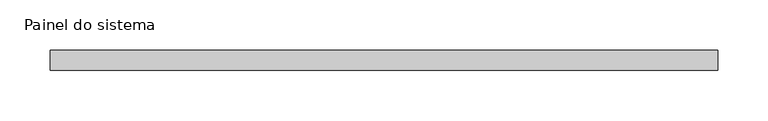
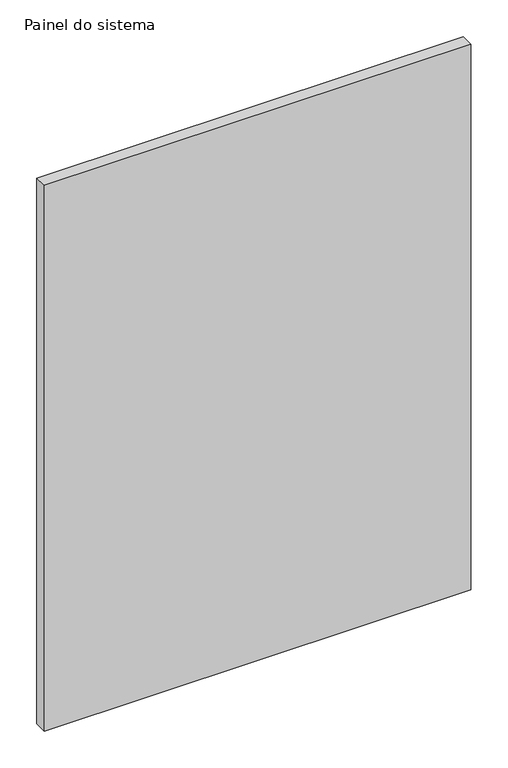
"""IFC4 building model written with IfcOpenShell, lengths in millimetres: plate geometry, Painel do sistema : Envidraçado."""

from ifc_helpers import new_model, si_unit, origin, origin_with_axes, place, context, project, spatial, polyline, outline, extrude, source, transform, mapped, element, save


def painel_do_sistema_2aa81470(model_context):
    return source(origin(), model_context, "Body", "SweptSolid", [
        extrude(outline(polyline([(332.5, -10.0), (-332.5, -10.0), (-332.5, 10.0), (332.5, 10.0), (332.5, -10.0)])), origin_with_axes(), (0.0, 0.0, 1.0), 900.0),
    ])


if __name__ == "__main__":
    model = new_model("IFC4")
    model_context = context("Model", 3, world=origin())
    ifc_project = project(units=[si_unit("LENGTHUNIT", "METRE", prefix="MILLI")], contexts=[model_context])
    site = spatial("IfcSite", under=ifc_project)
    building = spatial("IfcBuilding", under=site)
    placement = place(None, origin())
    painel_do_sistema_shape = painel_do_sistema_2aa81470(model_context)
    element("IfcPlate", 1, ObjectType="Painel do sistema : Envidraçado", at=placement, inside=building, context=model_context, shape_type="MappedRepresentation", body=[
        mapped(painel_do_sistema_shape, transform((0.0, 0.0, 0.0), x_axis=(1.0, 0.0, 0.0), y_axis=(0.0, 1.0, 0.0), z_axis=(0.0, 0.0, 1.0))),
    ])
    save(model, "model.ifc")
